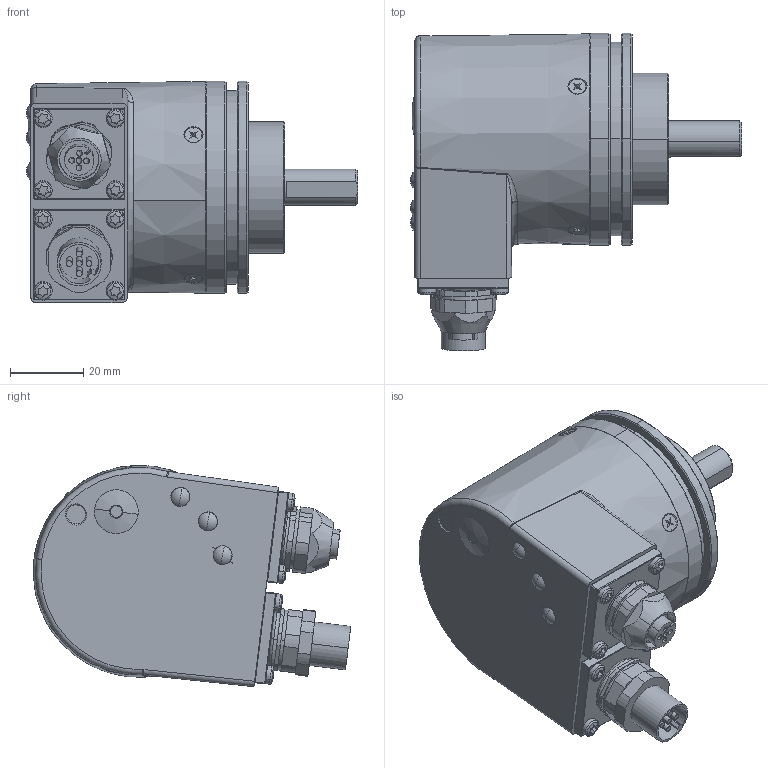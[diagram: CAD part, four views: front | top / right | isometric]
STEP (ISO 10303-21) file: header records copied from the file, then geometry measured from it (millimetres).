
FILE_DESCRIPTION (( 'STEP AP214' ), '1' );
FILE_NAME ('8.F5868.122F.2122.STEP', '2014-08-12T07:27:47', ( 'LauferA' ), ( 'Microsoft' ), 'SwSTEP 2.0', 'SolidWorks 2013', '' );
FILE_SCHEMA (( 'AUTOMOTIVE_DESIGN' ));
Length unit declared in the file: millimetre
Products named in the file (1): 8.F5868.122F.2122
Bounding box: 90.65 x 86.9 x 60.56 mm (x, y, z)
Volume: 85103.1 mm3; surface area: 57979 mm2
Topology: 28 solids, 28 shells, 1403 faces, 3272 edges, 1979 vertices
Faces by surface type: plane 458, cylinder 450, cone 253, torus 152, sphere 61, bspline 29
Entity records: 57570 total; most frequent: CARTESIAN_POINT 9556, DIRECTION 7269, ORIENTED_EDGE 6376, EDGE_CURVE 3188, AXIS2_PLACEMENT_3D 2966, VERTEX_POINT 1949, CIRCLE 1591, EDGE_LOOP 1583
